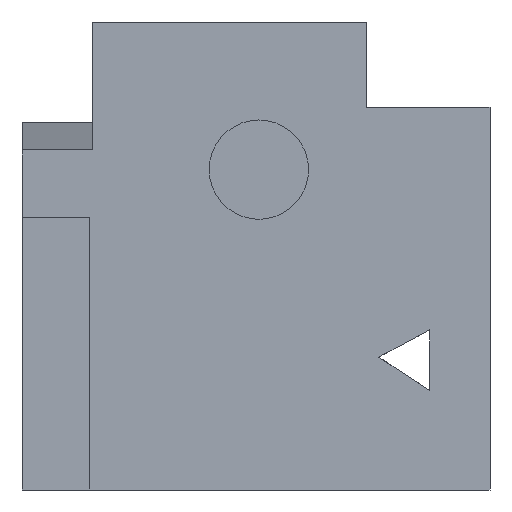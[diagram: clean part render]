
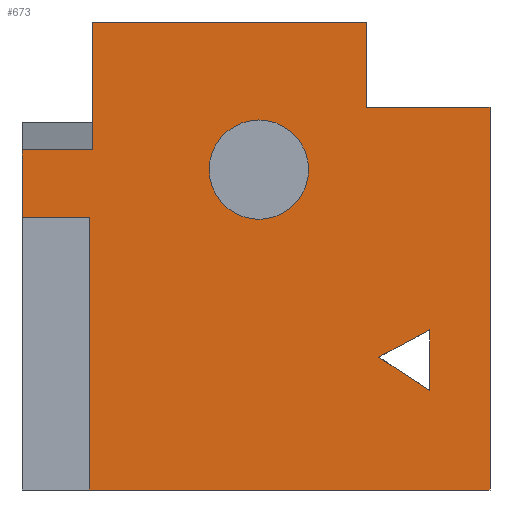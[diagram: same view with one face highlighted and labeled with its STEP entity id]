
A CAD part, left-side view. The second image highlights one B-rep face of the part: STEP entity #673.
In plain terms, the highlighted planar face has unit normal (-1, 0, 0).
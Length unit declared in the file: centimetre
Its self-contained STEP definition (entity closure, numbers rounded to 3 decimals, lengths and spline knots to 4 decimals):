
#2 = CARTESIAN_POINT ( 'NONE',  ( 0., 493.789, 684.53 ) ) ;
#5 = EDGE_CURVE ( 'NONE', #186, #156, #246, .T. ) ;
#7 = CARTESIAN_POINT ( 'NONE',  ( 0., 263.4567, 1000. ) ) ;
#25 = EDGE_CURVE ( 'NONE', #176, #256, #910, .T. ) ;
#26 = LINE ( 'NONE', #352, #44 ) ;
#27 = FACE_BOUND ( 'NONE', #456, .T. ) ;
#44 = VECTOR ( 'NONE', #467, 100. ) ;
#56 = CARTESIAN_POINT ( 'NONE',  ( 0., 856.4021, 583.186 ) ) ;
#58 = EDGE_CURVE ( 'NONE', #288, #620, #394, .T. ) ;
#62 = CARTESIAN_POINT ( 'NONE',  ( 0., 0., 0. ) ) ;
#66 = VECTOR ( 'NONE', #253, 100. ) ;
#83 = VERTEX_POINT ( 'NONE', #906 ) ;
#97 = EDGE_CURVE ( 'NONE', #350, #186, #233, .T. ) ;
#103 = DIRECTION ( 'NONE',  ( 0., -1., 0. ) ) ;
#106 = CARTESIAN_POINT ( 'NONE',  ( 0., 1000., 583.186 ) ) ;
#109 = ORIENTED_EDGE ( 'NONE', *, *, #824, .F. ) ;
#117 = CIRCLE ( 'NONE', #206, 106.1169 ) ;
#132 = ORIENTED_EDGE ( 'NONE', *, *, #97, .T. ) ;
#148 = EDGE_CURVE ( 'NONE', #855, #532, #26, .T. ) ;
#156 = VERTEX_POINT ( 'NONE', #106 ) ;
#158 = CARTESIAN_POINT ( 'NONE',  ( 0., 0., 1000. ) ) ;
#165 = VECTOR ( 'NONE', #239, 100. ) ;
#170 = ORIENTED_EDGE ( 'NONE', *, *, #935, .F. ) ;
#176 = VERTEX_POINT ( 'NONE', #306 ) ;
#186 = VERTEX_POINT ( 'NONE', #712 ) ;
#200 = ORIENTED_EDGE ( 'NONE', *, *, #58, .F. ) ;
#204 = EDGE_LOOP ( 'NONE', ( #786, #804, #200, #170, #295, #132, #1037, #590, #921, #926 ) ) ;
#206 = AXIS2_PLACEMENT_3D ( 'NONE', #642, #240, #486 ) ;
#217 = VERTEX_POINT ( 'NONE', #439 ) ;
#226 = DIRECTION ( 'NONE',  ( 0., 0., -1. ) ) ;
#229 = VECTOR ( 'NONE', #487, 100. ) ;
#232 = CARTESIAN_POINT ( 'NONE',  ( 0., 856.4021, 583.186 ) ) ;
#233 = LINE ( 'NONE', #559, #272 ) ;
#235 = EDGE_CURVE ( 'NONE', #855, #156, #606, .T. ) ;
#239 = DIRECTION ( 'NONE',  ( 0., 0.835, 0.551 ) ) ;
#240 = DIRECTION ( 'NONE',  ( -1., 0., 0. ) ) ;
#242 = LINE ( 'NONE', #820, #165 ) ;
#246 = LINE ( 'NONE', #1051, #229 ) ;
#253 = DIRECTION ( 'NONE',  ( 0., 0., 1. ) ) ;
#256 = VERTEX_POINT ( 'NONE', #62 ) ;
#269 = CARTESIAN_POINT ( 'NONE',  ( 0., 1000., 1000. ) ) ;
#272 = VECTOR ( 'NONE', #894, 100. ) ;
#274 = VERTEX_POINT ( 'NONE', #725 ) ;
#288 = VERTEX_POINT ( 'NONE', #7 ) ;
#295 = ORIENTED_EDGE ( 'NONE', *, *, #321, .F. ) ;
#298 = ORIENTED_EDGE ( 'NONE', *, *, #956, .F. ) ;
#306 = CARTESIAN_POINT ( 'NONE',  ( 0., 0., 818.1022 ) ) ;
#321 = EDGE_CURVE ( 'NONE', #350, #430, #752, .T. ) ;
#334 = EDGE_CURVE ( 'NONE', #826, #83, #242, .T. ) ;
#343 = DIRECTION ( 'NONE',  ( 0., 0., -1. ) ) ;
#345 = CARTESIAN_POINT ( 'NONE',  ( 0., 1000., 0. ) ) ;
#350 = VERTEX_POINT ( 'NONE', #738 ) ;
#352 = CARTESIAN_POINT ( 'NONE',  ( 0., 856.4021, 583.186 ) ) ;
#355 = FACE_OUTER_BOUND ( 'NONE', #204, .T. ) ;
#392 = EDGE_CURVE ( 'NONE', #620, #176, #911, .T. ) ;
#394 = LINE ( 'NONE', #659, #483 ) ;
#430 = VERTEX_POINT ( 'NONE', #680 ) ;
#434 = FACE_BOUND ( 'NONE', #853, .T. ) ;
#439 = CARTESIAN_POINT ( 'NONE',  ( 0., 129.1157, 342.1619 ) ) ;
#445 = VECTOR ( 'NONE', #827, 100. ) ;
#452 = ORIENTED_EDGE ( 'NONE', *, *, #856, .T. ) ;
#456 = EDGE_LOOP ( 'NONE', ( #109, #298 ) ) ;
#467 = DIRECTION ( 'NONE',  ( 0., 0., -1. ) ) ;
#479 = AXIS2_PLACEMENT_3D ( 'NONE', #2, #748, #575 ) ;
#480 = DIRECTION ( 'NONE',  ( 0., 0., -1. ) ) ;
#483 = VECTOR ( 'NONE', #819, 100. ) ;
#486 = DIRECTION ( 'NONE',  ( 0., 0., 1. ) ) ;
#487 = DIRECTION ( 'NONE',  ( 0., 0., -1. ) ) ;
#497 = DIRECTION ( 'NONE',  ( 0., -1., 0. ) ) ;
#499 = CIRCLE ( 'NONE', #479, 106.1169 ) ;
#511 = VERTEX_POINT ( 'NONE', #594 ) ;
#517 = VECTOR ( 'NONE', #480, 100. ) ;
#529 = AXIS2_PLACEMENT_3D ( 'NONE', #269, #918, #343 ) ;
#532 = VERTEX_POINT ( 'NONE', #848 ) ;
#536 = VECTOR ( 'NONE', #103, 100. ) ;
#549 = EDGE_CURVE ( 'NONE', #532, #256, #1001, .T. ) ;
#555 = DIRECTION ( 'NONE',  ( 0., -0.881, 0.473 ) ) ;
#559 = CARTESIAN_POINT ( 'NONE',  ( 0., 849.2623, 726.5064 ) ) ;
#560 = CARTESIAN_POINT ( 'NONE',  ( 0., 263.4567, 818.1022 ) ) ;
#575 = DIRECTION ( 'NONE',  ( 0., 0., 1. ) ) ;
#590 = ORIENTED_EDGE ( 'NONE', *, *, #235, .F. ) ;
#594 = CARTESIAN_POINT ( 'NONE',  ( 0., 493.789, 578.413 ) ) ;
#606 = LINE ( 'NONE', #56, #631 ) ;
#620 = VERTEX_POINT ( 'NONE', #1030 ) ;
#628 = VECTOR ( 'NONE', #226, 100. ) ;
#631 = VECTOR ( 'NONE', #943, 100. ) ;
#642 = CARTESIAN_POINT ( 'NONE',  ( 0., 493.789, 684.53 ) ) ;
#659 = CARTESIAN_POINT ( 'NONE',  ( 0., 263.4567, 818.1022 ) ) ;
#661 = CARTESIAN_POINT ( 'NONE',  ( 0., 129.1157, 212.4013 ) ) ;
#663 = CARTESIAN_POINT ( 'NONE',  ( 0., 849.2623, 726.5064 ) ) ;
#673 = ADVANCED_FACE ( 'NONE', ( #434, #27, #355 ), #688, .F. ) ;
#680 = CARTESIAN_POINT ( 'NONE',  ( 0., 849.2623, 1000. ) ) ;
#682 = VECTOR ( 'NONE', #555, 100. ) ;
#688 = PLANE ( 'NONE',  #529 ) ;
#712 = CARTESIAN_POINT ( 'NONE',  ( 0., 1000., 726.5064 ) ) ;
#725 = CARTESIAN_POINT ( 'NONE',  ( 0., 493.789, 790.6469 ) ) ;
#729 = LINE ( 'NONE', #965, #682 ) ;
#730 = EDGE_CURVE ( 'NONE', #217, #826, #964, .T. ) ;
#738 = CARTESIAN_POINT ( 'NONE',  ( 0., 849.2623, 726.5064 ) ) ;
#748 = DIRECTION ( 'NONE',  ( -1., 0., 0. ) ) ;
#752 = LINE ( 'NONE', #663, #66 ) ;
#780 = ORIENTED_EDGE ( 'NONE', *, *, #334, .T. ) ;
#786 = ORIENTED_EDGE ( 'NONE', *, *, #25, .F. ) ;
#802 = ORIENTED_EDGE ( 'NONE', *, *, #730, .T. ) ;
#804 = ORIENTED_EDGE ( 'NONE', *, *, #392, .F. ) ;
#819 = DIRECTION ( 'NONE',  ( 0., 0., -1. ) ) ;
#820 = CARTESIAN_POINT ( 'NONE',  ( 0., 237.6194, 283.9885 ) ) ;
#822 = CARTESIAN_POINT ( 'NONE',  ( 0., 1000., 1000. ) ) ;
#824 = EDGE_CURVE ( 'NONE', #274, #511, #499, .T. ) ;
#826 = VERTEX_POINT ( 'NONE', #661 ) ;
#827 = DIRECTION ( 'NONE',  ( 0., -1., 0. ) ) ;
#848 = CARTESIAN_POINT ( 'NONE',  ( 0., 856.4021, 0. ) ) ;
#853 = EDGE_LOOP ( 'NONE', ( #780, #452, #802 ) ) ;
#855 = VERTEX_POINT ( 'NONE', #232 ) ;
#856 = EDGE_CURVE ( 'NONE', #83, #217, #729, .T. ) ;
#893 = LINE ( 'NONE', #822, #445 ) ;
#894 = DIRECTION ( 'NONE',  ( 0., 1., 0. ) ) ;
#906 = CARTESIAN_POINT ( 'NONE',  ( 0., 237.6194, 283.9885 ) ) ;
#910 = LINE ( 'NONE', #158, #517 ) ;
#911 = LINE ( 'NONE', #560, #1046 ) ;
#918 = DIRECTION ( 'NONE',  ( 1., 0., 0. ) ) ;
#921 = ORIENTED_EDGE ( 'NONE', *, *, #148, .T. ) ;
#926 = ORIENTED_EDGE ( 'NONE', *, *, #549, .T. ) ;
#935 = EDGE_CURVE ( 'NONE', #430, #288, #893, .T. ) ;
#943 = DIRECTION ( 'NONE',  ( 0., 1., 0. ) ) ;
#956 = EDGE_CURVE ( 'NONE', #511, #274, #117, .T. ) ;
#957 = CARTESIAN_POINT ( 'NONE',  ( 0., 129.1157, 212.4013 ) ) ;
#964 = LINE ( 'NONE', #957, #628 ) ;
#965 = CARTESIAN_POINT ( 'NONE',  ( 0., 129.1157, 342.1619 ) ) ;
#1001 = LINE ( 'NONE', #345, #536 ) ;
#1030 = CARTESIAN_POINT ( 'NONE',  ( 0., 263.4567, 818.1022 ) ) ;
#1037 = ORIENTED_EDGE ( 'NONE', *, *, #5, .T. ) ;
#1046 = VECTOR ( 'NONE', #497, 100. ) ;
#1051 = CARTESIAN_POINT ( 'NONE',  ( 0., 1000., 1000. ) ) ;
